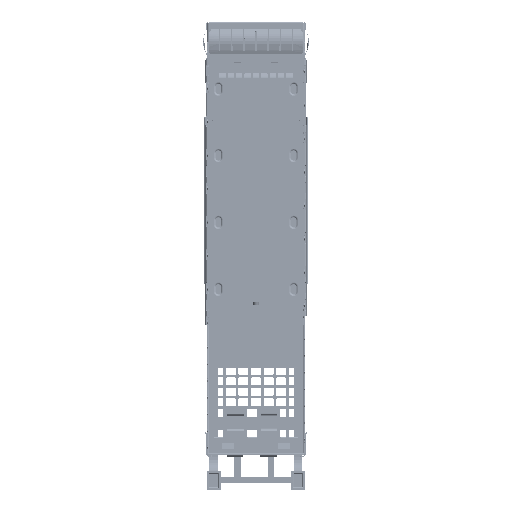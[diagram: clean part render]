
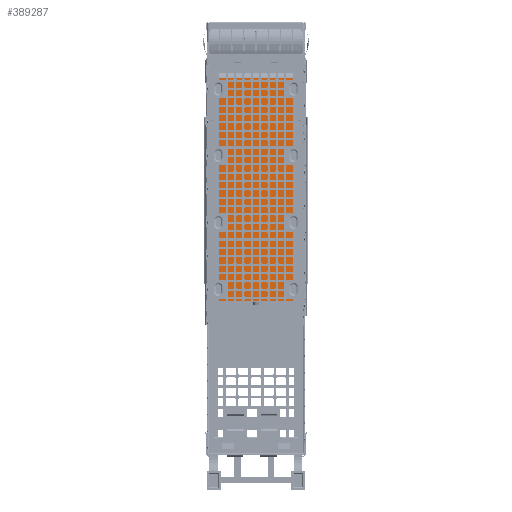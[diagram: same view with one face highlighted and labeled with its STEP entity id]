
A CAD part, front view. The second image highlights one B-rep face of the part: STEP entity #389287.
In plain terms, the highlighted planar face has unit normal (0, -1, 0).
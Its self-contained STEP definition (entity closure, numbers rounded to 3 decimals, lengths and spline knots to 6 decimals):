
#140829=DIRECTION('',(-1.,0.,0.));
#140830=VECTOR('',#140829,0.01785);
#140831=CARTESIAN_POINT('',(0.068856,0.01685,
-0.004877));
#140832=LINE('',#140831,#140830);
#140837=DIRECTION('',(-1.,0.,0.));
#140838=VECTOR('',#140837,0.01685);
#140839=CARTESIAN_POINT('',(0.068356,0.01685,
-0.0582));
#140840=LINE('',#140839,#140838);
#140841=CARTESIAN_POINT('',(0.051506,0.01685,
-0.0577));
#140842=DIRECTION('',(0.,1.,0.));
#140843=DIRECTION('',(0.,0.,-1.));
#140844=AXIS2_PLACEMENT_3D('',#140841,#140842,#140843);
#140846=DIRECTION('',(0.,0.,1.));
#140847=VECTOR('',#140846,0.052823);
#140848=CARTESIAN_POINT('',(0.051006,0.01685,
-0.0577));
#140849=LINE('',#140848,#140847);
#140850=CARTESIAN_POINT('',(0.068356,0.01685,
-0.0577));
#140851=DIRECTION('',(0.,1.,0.));
#140852=DIRECTION('',(1.,0.,0.));
#140853=AXIS2_PLACEMENT_3D('',#140850,#140851,#140852);
#140883=DIRECTION('',(0.,0.,1.));
#140884=VECTOR('',#140883,0.052823);
#140885=CARTESIAN_POINT('',(0.068856,0.01685,
-0.0577));
#140886=LINE('',#140885,#140884);
#188786=CARTESIAN_POINT('',(0.051006,0.01685,
-0.004877));
#188787=VERTEX_POINT('',#188786);
#188788=CARTESIAN_POINT('',(0.051006,0.01685,
-0.0577));
#188789=VERTEX_POINT('',#188788);
#188790=CARTESIAN_POINT('',(0.068856,0.01685,
-0.004877));
#188791=VERTEX_POINT('',#188790);
#188792=CARTESIAN_POINT('',(0.068356,0.01685,
-0.0582));
#188793=CARTESIAN_POINT('',(0.051506,0.01685,
-0.0582));
#188794=VERTEX_POINT('',#188792);
#188795=VERTEX_POINT('',#188793);
#188796=CARTESIAN_POINT('',(0.068856,0.01685,
-0.0577));
#188797=VERTEX_POINT('',#188796);
#389270=CARTESIAN_POINT('',(0.051006,0.01685,
-0.004877));
#389271=DIRECTION('',(0.,-1.,0.));
#389272=DIRECTION('',(0.,0.,-1.));
#389273=AXIS2_PLACEMENT_3D('',#389270,#389271,#389272);
#389274=PLANE('',#389273);
#389276=ORIENTED_EDGE('',*,*,#389275,.T.);
#389278=ORIENTED_EDGE('',*,*,#389277,.T.);
#389279=ORIENTED_EDGE('',*,*,#389237,.T.);
#389280=ORIENTED_EDGE('',*,*,#389261,.F.);
#389282=ORIENTED_EDGE('',*,*,#389281,.F.);
#389284=ORIENTED_EDGE('',*,*,#389283,.T.);
#389285=EDGE_LOOP('',(#389276,#389278,#389279,#389280,#389282,#389284));
#389286=FACE_OUTER_BOUND('',#389285,.F.);
#389287=ADVANCED_FACE('',(#389286),#389274,.T.);
#140845=CIRCLE('',#140844,0.0005);
#140854=CIRCLE('',#140853,0.0005);
#389237=EDGE_CURVE('',#188789,#188787,#140849,.T.);
#389261=EDGE_CURVE('',#188791,#188787,#140832,.T.);
#389275=EDGE_CURVE('',#188794,#188795,#140840,.T.);
#389277=EDGE_CURVE('',#188795,#188789,#140845,.T.);
#389281=EDGE_CURVE('',#188797,#188791,#140886,.T.);
#389283=EDGE_CURVE('',#188797,#188794,#140854,.T.);
